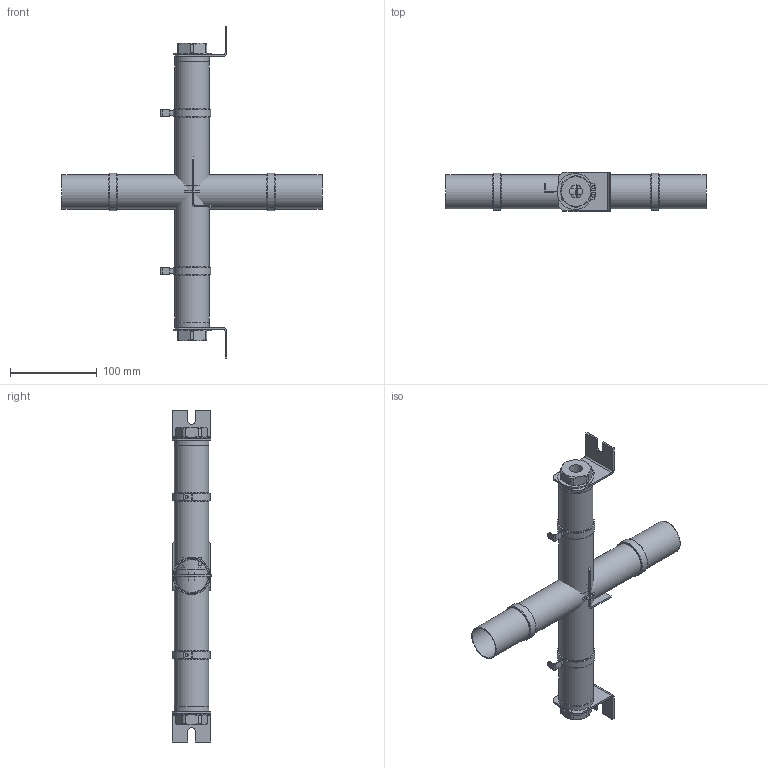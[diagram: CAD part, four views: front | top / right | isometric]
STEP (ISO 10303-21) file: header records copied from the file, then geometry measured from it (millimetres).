
FILE_DESCRIPTION( ( 'Unknown' ), '1' );
FILE_NAME( 'C:/Users/jlenain/Desktop/WCR38x300.stp', 'Unknown', ( 'Unknown' ), ( 'Unknown' ), 'PSStep 10.0', 'Unknown', ' ' );
FILE_SCHEMA( ( 'AUTOMOTIVE_DESIGN { 1 0 10303 214 1 1 1 1 }' ) );
Length unit declared in the file: millimetre
Products named in the file (8): WCR38x300-01; Assem1; WCR38x300-02; 244052 pour diam 38 faston coupe droite découpe 11mm; 211026; 278484; 211004; circlips 38
Bounding box: 300 x 45 x 382 mm (x, y, z)
Volume: 176278.2 mm3; surface area: 278178 mm2
Topology: 22 solids, 22 shells, 464 faces, 1163 edges, 767 vertices
Faces by surface type: plane 240, cylinder 155, torus 42, cone 27
Full cylindrical faces by diameter (mm): 3.2 x5, 3.52 x6, 14.917 x6, 14.95 x3, 29 x3, 37.2 x3, 38 x3, 39.5 x9, 40 x3, 43 x6
Entity records: 5225 total; most frequent: CARTESIAN_POINT 737, DIRECTION 706, ORIENTED_EDGE 608, EDGE_CURVE 304, AXIS2_PLACEMENT_3D 263, VERTEX_POINT 218, EDGE_LOOP 190, LINE 180
